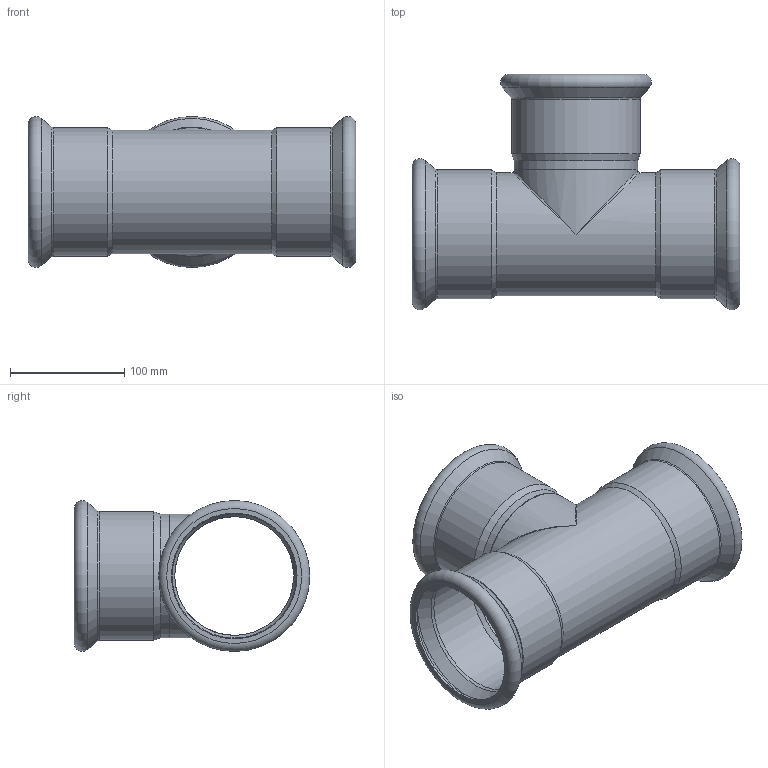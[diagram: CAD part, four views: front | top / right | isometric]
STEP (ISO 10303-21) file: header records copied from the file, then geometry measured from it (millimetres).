
FILE_DESCRIPTION((''),'2;1');
FILE_NAME('G:\Nirosan-Schmiedefeld\Technics\CAD\Bauteile VA\108\69130108(0).stp','2009-05-08T09:43:12',('herberg'),(''),'Autodesk Inventor 2009','Autodesk Inventor 2009','');
FILE_SCHEMA(('AUTOMOTIVE_DESIGN { 1 0 10303 214 1 1 1 1 }'));
Length unit declared in the file: millimetre
Products named in the file (3): 69130108(0); LM_69130108(0); HM_69243108(0)
Assembly tree (2 placements, depth 2):
  69130108(0)
    LM_69130108(0)
    HM_69243108(0)
Bounding box: 287 x 206.1 x 132.2 mm (x, y, z)
Volume: 273874.2 mm3; surface area: 277288.5 mm2
Topology: 2 solids, 2 shells, 51 faces, 109 edges, 57 vertices
Faces by surface type: cylinder 15, cone 12, bspline 10, plane 8, torus 6
Full cylindrical faces by diameter (mm): 104 x3, 108 x3, 108.7 x3, 110 x3, 112.7 x3
Entity records: 2263 total; most frequent: CARTESIAN_POINT 1320, DIRECTION 200, ORIENTED_EDGE 108, AXIS2_PLACEMENT_3D 100, EDGE_LOOP 100, EDGE_CURVE 54, FACE_OUTER_BOUND 51, ADVANCED_FACE 51
